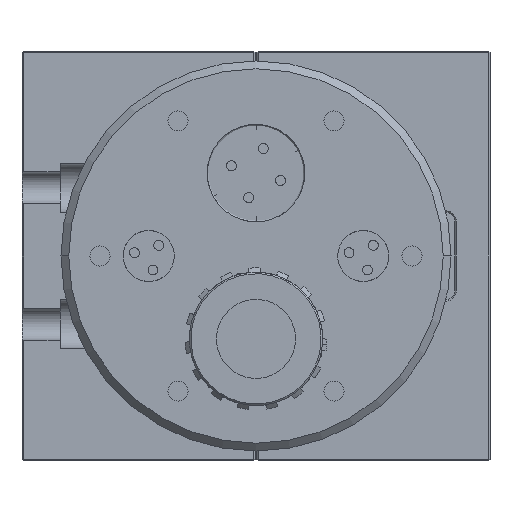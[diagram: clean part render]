
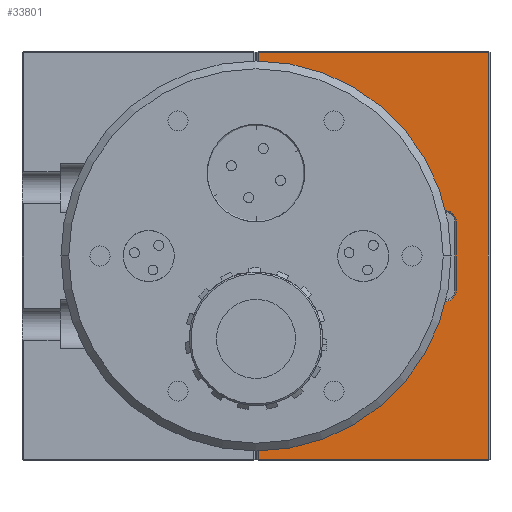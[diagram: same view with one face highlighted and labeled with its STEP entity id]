
A CAD part, front view. The second image highlights one B-rep face of the part: STEP entity #33801.
In plain terms, the highlighted planar face has unit normal (0, -1, 0).
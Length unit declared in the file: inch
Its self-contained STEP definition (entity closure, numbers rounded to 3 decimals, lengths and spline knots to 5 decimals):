
#6540 = AXIS2_PLACEMENT_3D ( 'NONE', #55730, #55732, #55734 ) ;
#6853 = AXIS2_PLACEMENT_3D ( 'NONE', #52129, #52130, #52131 ) ;
#6890 = AXIS2_PLACEMENT_3D ( 'NONE', #43479, #43480, #43481 ) ;
#6921 = AXIS2_PLACEMENT_3D ( 'NONE', #43625, #43626, #43627 ) ;
#9498 = CARTESIAN_POINT ( 'NONE',  ( 2.422, -3.2864, -0.585 ) ) ;
#11188 = VERTEX_POINT ( 'NONE', #30556 ) ;
#11212 = VERTEX_POINT ( 'NONE', #16529 ) ;
#11214 = VERTEX_POINT ( 'NONE', #16474 ) ;
#11366 = VERTEX_POINT ( 'NONE', #9498 ) ;
#11549 = VERTEX_POINT ( 'NONE', #58130 ) ;
#11712 = VERTEX_POINT ( 'NONE', #48154 ) ;
#11728 = VERTEX_POINT ( 'NONE', #48160 ) ;
#11768 = VERTEX_POINT ( 'NONE', #48207 ) ;
#11794 = VERTEX_POINT ( 'NONE', #48223 ) ;
#11859 = VERTEX_POINT ( 'NONE', #39934 ) ;
#11903 = VERTEX_POINT ( 'NONE', #57107 ) ;
#11914 = VERTEX_POINT ( 'NONE', #57180 ) ;
#16474 = CARTESIAN_POINT ( 'NONE',  ( 0.03, -3.2864, -2.39981 ) ) ;
#16529 = CARTESIAN_POINT ( 'NONE',  ( 0.03, -3.2864, -2.60498 ) ) ;
#22798 = PLANE ( 'NONE',  #43005 ) ;
#22811 = CARTESIAN_POINT ( 'NONE',  ( 0., -3.2864, 0. ) ) ;
#22812 = DIRECTION ( 'NONE',  ( 0., 1., 0. ) ) ;
#22813 = DIRECTION ( 'NONE',  ( -1., 0., 0. ) ) ;
#26624 = FACE_OUTER_BOUND ( 'NONE', #46828, .T. ) ;
#30556 = CARTESIAN_POINT ( 'NONE',  ( 2.32761, -3.2864, -0.585 ) ) ;
#33801 = ADVANCED_FACE ( 'NONE', ( #26624 ), #22798, .F. ) ;
#39934 = CARTESIAN_POINT ( 'NONE',  ( 2.98, -3.2864, 2.60498 ) ) ;
#40065 = EDGE_CURVE ( 'NONE', #11549, #11914, #49285, .T. ) ;
#40530 = EDGE_CURVE ( 'NONE', #11366, #11188, #41494, .T. ) ;
#40536 = EDGE_CURVE ( 'NONE', #11712, #11366, #41503, .T. ) ;
#40575 = EDGE_CURVE ( 'NONE', #11794, #11728, #41630, .T. ) ;
#40588 = EDGE_CURVE ( 'NONE', #11214, #11212, #41669, .T. ) ;
#40621 = EDGE_CURVE ( 'NONE', #11188, #11214, #41737, .T. ) ;
#40627 = EDGE_CURVE ( 'NONE', #11212, #11903, #41763, .T. ) ;
#40641 = EDGE_CURVE ( 'NONE', #11859, #11768, #41802, .T. ) ;
#40652 = EDGE_CURVE ( 'NONE', #11903, #11859, #41842, .T. ) ;
#40667 = EDGE_CURVE ( 'NONE', #11768, #11549, #41868, .T. ) ;
#40688 = EDGE_CURVE ( 'NONE', #11914, #11794, #41900, .T. ) ;
#40693 = EDGE_CURVE ( 'NONE', #11728, #11712, #41909, .T. ) ;
#41494 = LINE ( 'NONE', #52097, #41505 ) ;
#41503 = CIRCLE ( 'NONE', #6853, 0.145 ) ;
#41505 = VECTOR ( 'NONE', #52116, 39.37008 ) ;
#41630 = CIRCLE ( 'NONE', #6890, 0.145 ) ;
#41669 = LINE ( 'NONE', #43495, #41674 ) ;
#41674 = VECTOR ( 'NONE', #43496, 39.37008 ) ;
#41737 = CIRCLE ( 'NONE', #6921, 2.4 ) ;
#41763 = LINE ( 'NONE', #43643, #41782 ) ;
#41782 = VECTOR ( 'NONE', #43648, 39.37008 ) ;
#41802 = LINE ( 'NONE', #43691, #41823 ) ;
#41823 = VECTOR ( 'NONE', #43695, 39.37008 ) ;
#41842 = LINE ( 'NONE', #43750, #41846 ) ;
#41846 = VECTOR ( 'NONE', #43752, 39.37008 ) ;
#41868 = LINE ( 'NONE', #43814, #41871 ) ;
#41871 = VECTOR ( 'NONE', #43817, 39.37008 ) ;
#41900 = LINE ( 'NONE', #43932, #41903 ) ;
#41903 = VECTOR ( 'NONE', #43935, 39.37008 ) ;
#41909 = LINE ( 'NONE', #43955, #41912 ) ;
#41912 = VECTOR ( 'NONE', #43958, 39.37008 ) ;
#43005 = AXIS2_PLACEMENT_3D ( 'NONE', #22811, #22812, #22813 ) ;
#43479 = CARTESIAN_POINT ( 'NONE',  ( 2.422, -3.2864, 0.44 ) ) ;
#43480 = DIRECTION ( 'NONE',  ( 0., 1., 0. ) ) ;
#43481 = DIRECTION ( 'NONE',  ( -1., 0., 0. ) ) ;
#43495 = CARTESIAN_POINT ( 'NONE',  ( 0.03, -3.2864, -2.62498 ) ) ;
#43496 = DIRECTION ( 'NONE',  ( 0., 0., -1. ) ) ;
#43625 = CARTESIAN_POINT ( 'NONE',  ( 0., -3.2864, 0. ) ) ;
#43626 = DIRECTION ( 'NONE',  ( 0., 1., 0. ) ) ;
#43627 = DIRECTION ( 'NONE',  ( 1., 0., 0. ) ) ;
#43643 = CARTESIAN_POINT ( 'NONE',  ( 3., -3.2864, -2.60498 ) ) ;
#43648 = DIRECTION ( 'NONE',  ( 1., 0., 0. ) ) ;
#43691 = CARTESIAN_POINT ( 'NONE',  ( 0., -3.2864, 2.60498 ) ) ;
#43695 = DIRECTION ( 'NONE',  ( -1., 0., 0. ) ) ;
#43750 = CARTESIAN_POINT ( 'NONE',  ( 2.98, -3.2864, 0. ) ) ;
#43752 = DIRECTION ( 'NONE',  ( 0., 0., 1. ) ) ;
#43814 = CARTESIAN_POINT ( 'NONE',  ( 0.03, -3.2864, 0. ) ) ;
#43817 = DIRECTION ( 'NONE',  ( 0., 0., -1. ) ) ;
#43932 = CARTESIAN_POINT ( 'NONE',  ( 0., -3.2864, 0.585 ) ) ;
#43935 = DIRECTION ( 'NONE',  ( 1., 0., 0. ) ) ;
#43955 = CARTESIAN_POINT ( 'NONE',  ( 2.567, -3.2864, 0. ) ) ;
#43958 = DIRECTION ( 'NONE',  ( 0., 0., -1. ) ) ;
#46828 = EDGE_LOOP ( 'NONE', ( #54617, #54620, #54622, #54625, #54627, #54630, #54632, #54635, #54637, #54640, #54642, #54645 ) ) ;
#48154 = CARTESIAN_POINT ( 'NONE',  ( 2.567, -3.2864, -0.44 ) ) ;
#48160 = CARTESIAN_POINT ( 'NONE',  ( 2.567, -3.2864, 0.44 ) ) ;
#48207 = CARTESIAN_POINT ( 'NONE',  ( 0.03, -3.2864, 2.60498 ) ) ;
#48223 = CARTESIAN_POINT ( 'NONE',  ( 2.422, -3.2864, 0.585 ) ) ;
#49285 = CIRCLE ( 'NONE', #6540, 2.4 ) ;
#52097 = CARTESIAN_POINT ( 'NONE',  ( 0., -3.2864, -0.585 ) ) ;
#52116 = DIRECTION ( 'NONE',  ( -1., 0., 0. ) ) ;
#52129 = CARTESIAN_POINT ( 'NONE',  ( 2.422, -3.2864, -0.44 ) ) ;
#52130 = DIRECTION ( 'NONE',  ( 0., 1., 0. ) ) ;
#52131 = DIRECTION ( 'NONE',  ( -1., 0., 0. ) ) ;
#54617 = ORIENTED_EDGE ( 'NONE', *, *, #40530, .T. ) ;
#54620 = ORIENTED_EDGE ( 'NONE', *, *, #40621, .T. ) ;
#54622 = ORIENTED_EDGE ( 'NONE', *, *, #40588, .T. ) ;
#54625 = ORIENTED_EDGE ( 'NONE', *, *, #40627, .T. ) ;
#54627 = ORIENTED_EDGE ( 'NONE', *, *, #40652, .T. ) ;
#54630 = ORIENTED_EDGE ( 'NONE', *, *, #40641, .T. ) ;
#54632 = ORIENTED_EDGE ( 'NONE', *, *, #40667, .T. ) ;
#54635 = ORIENTED_EDGE ( 'NONE', *, *, #40065, .T. ) ;
#54637 = ORIENTED_EDGE ( 'NONE', *, *, #40688, .T. ) ;
#54640 = ORIENTED_EDGE ( 'NONE', *, *, #40575, .T. ) ;
#54642 = ORIENTED_EDGE ( 'NONE', *, *, #40693, .T. ) ;
#54645 = ORIENTED_EDGE ( 'NONE', *, *, #40536, .T. ) ;
#55730 = CARTESIAN_POINT ( 'NONE',  ( 0., -3.2864, 0. ) ) ;
#55732 = DIRECTION ( 'NONE',  ( 0., 1., 0. ) ) ;
#55734 = DIRECTION ( 'NONE',  ( 1., 0., 0. ) ) ;
#57107 = CARTESIAN_POINT ( 'NONE',  ( 2.98, -3.2864, -2.60498 ) ) ;
#57180 = CARTESIAN_POINT ( 'NONE',  ( 2.32761, -3.2864, 0.585 ) ) ;
#58130 = CARTESIAN_POINT ( 'NONE',  ( 0.03, -3.2864, 2.39981 ) ) ;
